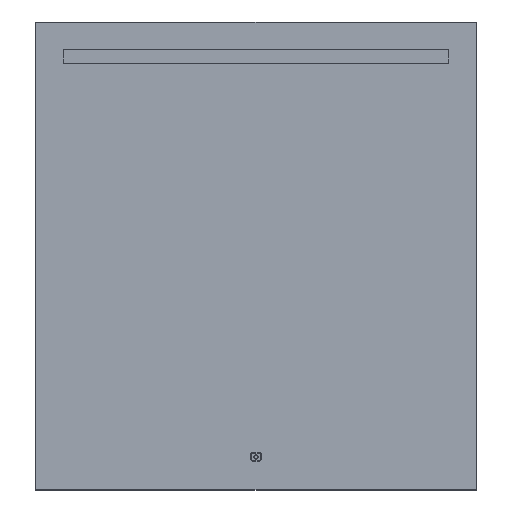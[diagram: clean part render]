
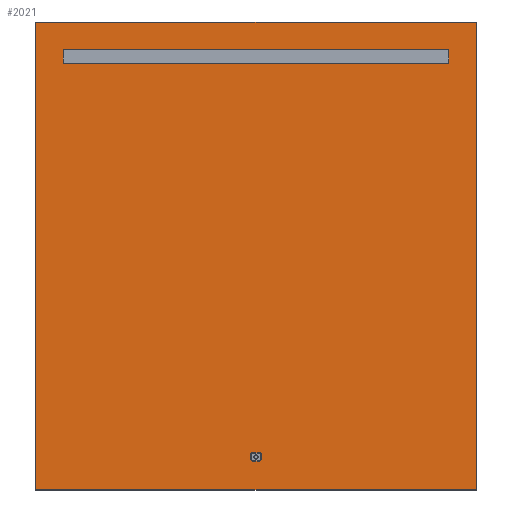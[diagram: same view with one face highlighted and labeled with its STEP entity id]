
A CAD part, top view. The second image highlights one B-rep face of the part: STEP entity #2021.
In plain terms, the highlighted planar face has unit normal (0, 0, 1).
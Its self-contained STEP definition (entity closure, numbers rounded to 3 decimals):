
#20 = EDGE_CURVE ( 'NONE', #5962, #6621, #7158, .T. ) ;
#87 = CARTESIAN_POINT ( 'NONE',  ( 400., -425., 2.5 ) ) ;
#173 = EDGE_LOOP ( 'NONE', ( #223, #637, #5986, #2388, #4901, #248, #4917, #2096 ) ) ;
#176 = ORIENTED_EDGE ( 'NONE', *, *, #4601, .F. ) ;
#223 = ORIENTED_EDGE ( 'NONE', *, *, #837, .F. ) ;
#243 = EDGE_CURVE ( 'NONE', #6227, #2517, #4119, .T. ) ;
#248 = ORIENTED_EDGE ( 'NONE', *, *, #3959, .F. ) ;
#337 = CARTESIAN_POINT ( 'NONE',  ( 0., -357.5, 2.5 ) ) ;
#370 = EDGE_CURVE ( 'NONE', #789, #657, #3591, .T. ) ;
#383 = CARTESIAN_POINT ( 'NONE',  ( 6., -361.5, 2.5 ) ) ;
#395 = VERTEX_POINT ( 'NONE', #4598 ) ;
#426 = DIRECTION ( 'NONE',  ( -1., 0., 0. ) ) ;
#457 = ORIENTED_EDGE ( 'NONE', *, *, #20, .T. ) ;
#519 = LINE ( 'NONE', #337, #3305 ) ;
#587 = CARTESIAN_POINT ( 'NONE',  ( 350., 375., 2.5 ) ) ;
#600 = CARTESIAN_POINT ( 'NONE',  ( -400., -425., 2.5 ) ) ;
#637 = ORIENTED_EDGE ( 'NONE', *, *, #2486, .F. ) ;
#641 = EDGE_CURVE ( 'NONE', #5693, #6849, #6456, .T. ) ;
#645 = CARTESIAN_POINT ( 'NONE',  ( -6., -372.5, 2.5 ) ) ;
#657 = VERTEX_POINT ( 'NONE', #842 ) ;
#776 = VECTOR ( 'NONE', #853, 1000. ) ;
#789 = VERTEX_POINT ( 'NONE', #2575 ) ;
#815 = DIRECTION ( 'NONE',  ( 0., 1., 0. ) ) ;
#816 = EDGE_CURVE ( 'NONE', #2517, #4240, #3321, .T. ) ;
#837 = EDGE_CURVE ( 'NONE', #3956, #3575, #6263, .T. ) ;
#842 = CARTESIAN_POINT ( 'NONE',  ( -10., -361.5, 2.5 ) ) ;
#853 = DIRECTION ( 'NONE',  ( 1., 0., 0. ) ) ;
#967 = CARTESIAN_POINT ( 'NONE',  ( 6., -368.5, 2.5 ) ) ;
#1004 = CARTESIAN_POINT ( 'NONE',  ( -6., -361.5, 2.5 ) ) ;
#1016 = DIRECTION ( 'NONE',  ( 0., 0., 1. ) ) ;
#1058 = ORIENTED_EDGE ( 'NONE', *, *, #641, .F. ) ;
#1355 = EDGE_CURVE ( 'NONE', #6621, #4049, #4349, .T. ) ;
#1367 = CARTESIAN_POINT ( 'NONE',  ( -350., 350., 2.5 ) ) ;
#1382 = FACE_OUTER_BOUND ( 'NONE', #3764, .T. ) ;
#1408 = ORIENTED_EDGE ( 'NONE', *, *, #5521, .T. ) ;
#1587 = LINE ( 'NONE', #1880, #2897 ) ;
#1590 = EDGE_LOOP ( 'NONE', ( #1058, #6859, #6423, #176 ) ) ;
#1650 = CARTESIAN_POINT ( 'NONE',  ( 10., -368.5, 2.5 ) ) ;
#1764 = EDGE_CURVE ( 'NONE', #3575, #789, #519, .T. ) ;
#1880 = CARTESIAN_POINT ( 'NONE',  ( 0., 375., 2.5 ) ) ;
#1895 = FACE_BOUND ( 'NONE', #1590, .T. ) ;
#2000 = DIRECTION ( 'NONE',  ( -1., 0., 0. ) ) ;
#2018 = VERTEX_POINT ( 'NONE', #1367 ) ;
#2021 = ADVANCED_FACE ( 'NONE', ( #4334, #1382, #1895 ), #3532, .F. ) ;
#2041 = DIRECTION ( 'NONE',  ( 0., 0., 1. ) ) ;
#2082 = LINE ( 'NONE', #6980, #6952 ) ;
#2087 = EDGE_CURVE ( 'NONE', #2494, #2018, #7111, .T. ) ;
#2096 = ORIENTED_EDGE ( 'NONE', *, *, #1764, .F. ) ;
#2159 = DIRECTION ( 'NONE',  ( 1., 0., 0. ) ) ;
#2301 = AXIS2_PLACEMENT_3D ( 'NONE', #967, #1016, #426 ) ;
#2328 = VECTOR ( 'NONE', #6667, 1000. ) ;
#2388 = ORIENTED_EDGE ( 'NONE', *, *, #243, .F. ) ;
#2417 = LINE ( 'NONE', #6948, #776 ) ;
#2486 = EDGE_CURVE ( 'NONE', #4240, #3956, #6405, .T. ) ;
#2494 = VERTEX_POINT ( 'NONE', #5083 ) ;
#2517 = VERTEX_POINT ( 'NONE', #2824 ) ;
#2575 = CARTESIAN_POINT ( 'NONE',  ( -6., -357.5, 2.5 ) ) ;
#2638 = VECTOR ( 'NONE', #815, 1000. ) ;
#2824 = CARTESIAN_POINT ( 'NONE',  ( 6., -372.5, 2.5 ) ) ;
#2897 = VECTOR ( 'NONE', #6936, 1000. ) ;
#2971 = AXIS2_PLACEMENT_3D ( 'NONE', #6337, #5258, #3050 ) ;
#2993 = ORIENTED_EDGE ( 'NONE', *, *, #3849, .T. ) ;
#3050 = DIRECTION ( 'NONE',  ( -1., 0., 0. ) ) ;
#3228 = DIRECTION ( 'NONE',  ( 0., 0., 1. ) ) ;
#3305 = VECTOR ( 'NONE', #2000, 1000. ) ;
#3321 = CIRCLE ( 'NONE', #2301, 4. ) ;
#3532 = PLANE ( 'NONE',  #2971 ) ;
#3575 = VERTEX_POINT ( 'NONE', #6714 ) ;
#3591 = CIRCLE ( 'NONE', #6516, 4. ) ;
#3630 = VECTOR ( 'NONE', #5635, 1000. ) ;
#3764 = EDGE_LOOP ( 'NONE', ( #1408, #2993, #457, #6283 ) ) ;
#3849 = EDGE_CURVE ( 'NONE', #5130, #5962, #5653, .T. ) ;
#3866 = CARTESIAN_POINT ( 'NONE',  ( 0., -372.5, 2.5 ) ) ;
#3906 = CARTESIAN_POINT ( 'NONE',  ( 10., 0., 2.5 ) ) ;
#3945 = DIRECTION ( 'NONE',  ( 0., -1., 0. ) ) ;
#3956 = VERTEX_POINT ( 'NONE', #5371 ) ;
#3959 = EDGE_CURVE ( 'NONE', #657, #395, #2082, .T. ) ;
#3977 = DIRECTION ( 'NONE',  ( 0., -1., 0. ) ) ;
#4049 = VERTEX_POINT ( 'NONE', #87 ) ;
#4115 = CARTESIAN_POINT ( 'NONE',  ( 350., 0., 2.5 ) ) ;
#4119 = LINE ( 'NONE', #3866, #6813 ) ;
#4182 = LINE ( 'NONE', #6706, #5917 ) ;
#4240 = VERTEX_POINT ( 'NONE', #1650 ) ;
#4334 = FACE_BOUND ( 'NONE', #173, .T. ) ;
#4349 = LINE ( 'NONE', #6637, #7040 ) ;
#4357 = AXIS2_PLACEMENT_3D ( 'NONE', #383, #3228, #7101 ) ;
#4461 = CARTESIAN_POINT ( 'NONE',  ( -400., 425., 2.5 ) ) ;
#4598 = CARTESIAN_POINT ( 'NONE',  ( -10., -368.5, 2.5 ) ) ;
#4601 = EDGE_CURVE ( 'NONE', #6849, #2494, #1587, .T. ) ;
#4623 = AXIS2_PLACEMENT_3D ( 'NONE', #5954, #2041, #5450 ) ;
#4894 = DIRECTION ( 'NONE',  ( 0., 0., 1. ) ) ;
#4901 = ORIENTED_EDGE ( 'NONE', *, *, #5349, .F. ) ;
#4917 = ORIENTED_EDGE ( 'NONE', *, *, #370, .F. ) ;
#5000 = CARTESIAN_POINT ( 'NONE',  ( -350., 0., 2.5 ) ) ;
#5083 = CARTESIAN_POINT ( 'NONE',  ( -350., 375., 2.5 ) ) ;
#5130 = VERTEX_POINT ( 'NONE', #5832 ) ;
#5258 = DIRECTION ( 'NONE',  ( 0., 0., -1. ) ) ;
#5349 = EDGE_CURVE ( 'NONE', #395, #6227, #5580, .T. ) ;
#5371 = CARTESIAN_POINT ( 'NONE',  ( 10., -361.5, 2.5 ) ) ;
#5450 = DIRECTION ( 'NONE',  ( -1., 0., 0. ) ) ;
#5521 = EDGE_CURVE ( 'NONE', #4049, #5130, #4182, .T. ) ;
#5580 = CIRCLE ( 'NONE', #4623, 4. ) ;
#5635 = DIRECTION ( 'NONE',  ( 0., 1., 0. ) ) ;
#5653 = LINE ( 'NONE', #5858, #6338 ) ;
#5693 = VERTEX_POINT ( 'NONE', #5726 ) ;
#5695 = VECTOR ( 'NONE', #3977, 1000. ) ;
#5726 = CARTESIAN_POINT ( 'NONE',  ( 350., 350., 2.5 ) ) ;
#5832 = CARTESIAN_POINT ( 'NONE',  ( 400., 425., 2.5 ) ) ;
#5852 = CARTESIAN_POINT ( 'NONE',  ( -400., -425., 2.5 ) ) ;
#5858 = CARTESIAN_POINT ( 'NONE',  ( -400., 425., 2.5 ) ) ;
#5917 = VECTOR ( 'NONE', #6220, 1000. ) ;
#5954 = CARTESIAN_POINT ( 'NONE',  ( -6., -368.5, 2.5 ) ) ;
#5962 = VERTEX_POINT ( 'NONE', #4461 ) ;
#5986 = ORIENTED_EDGE ( 'NONE', *, *, #816, .F. ) ;
#6029 = DIRECTION ( 'NONE',  ( -1., 0., 0. ) ) ;
#6220 = DIRECTION ( 'NONE',  ( 0., 1., 0. ) ) ;
#6227 = VERTEX_POINT ( 'NONE', #645 ) ;
#6263 = CIRCLE ( 'NONE', #4357, 4. ) ;
#6283 = ORIENTED_EDGE ( 'NONE', *, *, #1355, .T. ) ;
#6337 = CARTESIAN_POINT ( 'NONE',  ( 0., 0., 2.5 ) ) ;
#6338 = VECTOR ( 'NONE', #6402, 1000. ) ;
#6402 = DIRECTION ( 'NONE',  ( -1., 0., 0. ) ) ;
#6405 = LINE ( 'NONE', #3906, #3630 ) ;
#6423 = ORIENTED_EDGE ( 'NONE', *, *, #2087, .F. ) ;
#6456 = LINE ( 'NONE', #4115, #2638 ) ;
#6516 = AXIS2_PLACEMENT_3D ( 'NONE', #1004, #4894, #6029 ) ;
#6594 = EDGE_CURVE ( 'NONE', #2018, #5693, #2417, .T. ) ;
#6612 = DIRECTION ( 'NONE',  ( 1., 0., 0. ) ) ;
#6621 = VERTEX_POINT ( 'NONE', #5852 ) ;
#6637 = CARTESIAN_POINT ( 'NONE',  ( -400., -425., 2.5 ) ) ;
#6667 = DIRECTION ( 'NONE',  ( 0., -1., 0. ) ) ;
#6706 = CARTESIAN_POINT ( 'NONE',  ( 400., -425., 2.5 ) ) ;
#6714 = CARTESIAN_POINT ( 'NONE',  ( 6., -357.5, 2.5 ) ) ;
#6813 = VECTOR ( 'NONE', #2159, 1000. ) ;
#6849 = VERTEX_POINT ( 'NONE', #587 ) ;
#6859 = ORIENTED_EDGE ( 'NONE', *, *, #6594, .F. ) ;
#6936 = DIRECTION ( 'NONE',  ( -1., 0., 0. ) ) ;
#6948 = CARTESIAN_POINT ( 'NONE',  ( 0., 350., 2.5 ) ) ;
#6952 = VECTOR ( 'NONE', #3945, 1000. ) ;
#6980 = CARTESIAN_POINT ( 'NONE',  ( -10., 0., 2.5 ) ) ;
#7040 = VECTOR ( 'NONE', #6612, 1000. ) ;
#7101 = DIRECTION ( 'NONE',  ( -1., 0., 0. ) ) ;
#7111 = LINE ( 'NONE', #5000, #2328 ) ;
#7158 = LINE ( 'NONE', #600, #5695 ) ;
